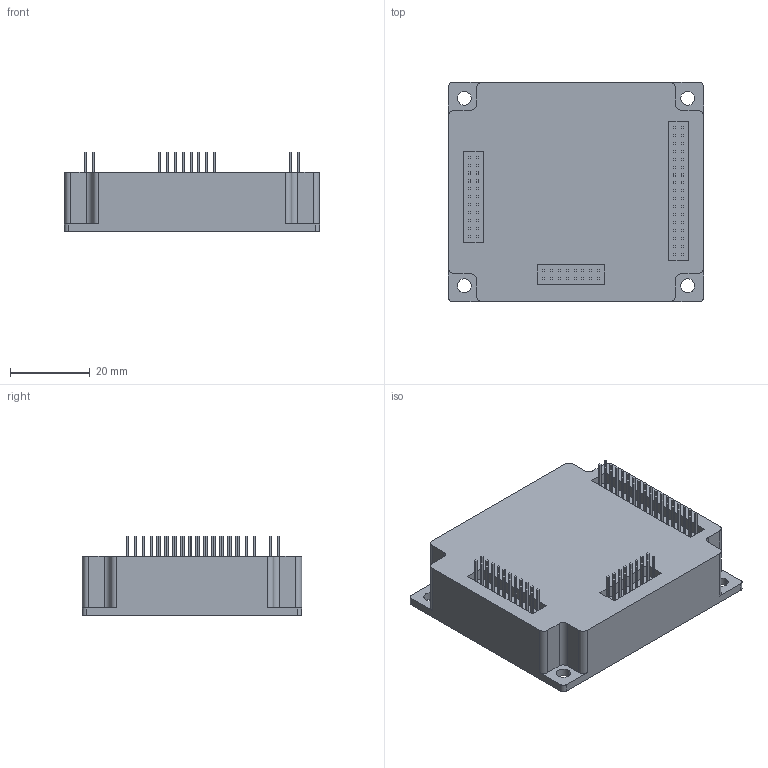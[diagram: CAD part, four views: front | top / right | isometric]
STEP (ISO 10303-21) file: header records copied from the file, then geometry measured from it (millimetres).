
FILE_DESCRIPTION (( 'STEP AP214' ), '1' );
FILE_NAME ('COBRA4806-P耀倰.STEP', '2025-06-10T03:05:12', ( '' ), ( '' ), 'SwSTEP 2.0', 'SolidWorks 2022', '' );
FILE_SCHEMA (( 'AUTOMOTIVE_DESIGN' ));
Length unit declared in the file: millimetre
Products named in the file (1): COBRA4806-P模型
Bounding box: 64 x 55 x 20 mm (x, y, z)
Volume: 49167.2 mm3; surface area: 12207.4 mm2
Topology: 1 solids, 1 shells, 417 faces, 1020 edges, 680 vertices
Faces by surface type: plane 393, cylinder 24
Entity records: 12554 total; most frequent: CARTESIAN_POINT 2118, ORIENTED_EDGE 2040, DIRECTION 1904, EDGE_CURVE 1020, LINE 972, VECTOR 972, VERTEX_POINT 680, EDGE_LOOP 500
